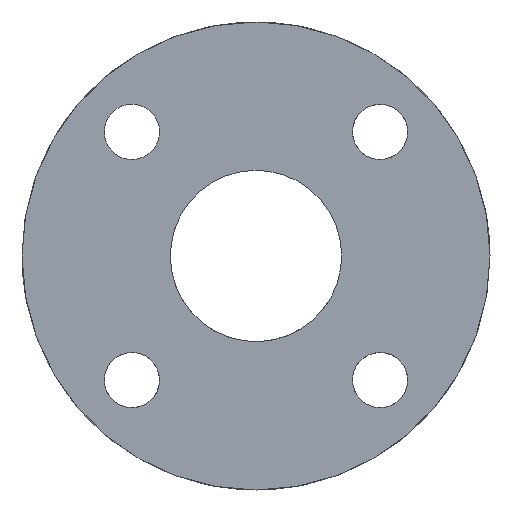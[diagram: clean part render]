
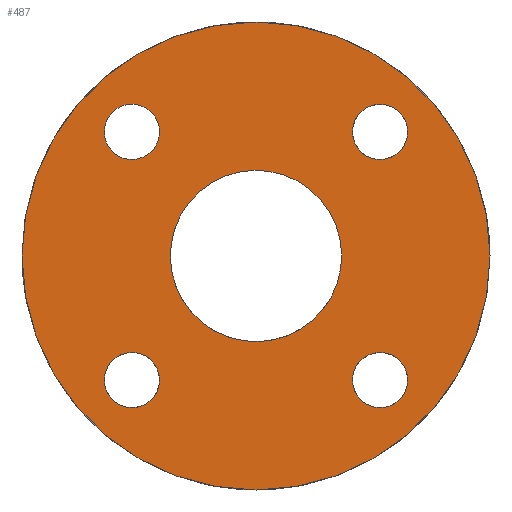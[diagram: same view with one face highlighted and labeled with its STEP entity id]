
A CAD part, left-side view. The second image highlights one B-rep face of the part: STEP entity #487.
In plain terms, the highlighted planar face has unit normal (-1, 0, 0).
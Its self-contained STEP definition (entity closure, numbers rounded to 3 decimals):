
#63=CARTESIAN_POINT('Vertex',(0.,11.953,13.267)) ;
#77=CARTESIAN_POINT('Vertex',(0.,17.745,16.431)) ;
#80=CARTESIAN_POINT('Axis2P3D Location',(0.,14.849,14.849)) ;
#115=CARTESIAN_POINT('Control Point',(0.,17.745,16.431)) ;
#116=CARTESIAN_POINT('Control Point',(0.,17.497,16.886)) ;
#117=CARTESIAN_POINT('Control Point',(0.,17.159,17.292)) ;
#118=CARTESIAN_POINT('Control Point',(0.,16.744,17.626)) ;
#119=CARTESIAN_POINT('Control Point',(0.,15.807,18.113)) ;
#120=CARTESIAN_POINT('Control Point',(0.,14.755,18.21)) ;
#121=CARTESIAN_POINT('Control Point',(0.,14.226,18.153)) ;
#122=CARTESIAN_POINT('Control Point',(0.,13.218,17.835)) ;
#123=CARTESIAN_POINT('Control Point',(0.,12.406,17.159)) ;
#124=CARTESIAN_POINT('Control Point',(0.,12.072,16.744)) ;
#125=CARTESIAN_POINT('Control Point',(0.,11.585,15.807)) ;
#126=CARTESIAN_POINT('Control Point',(0.,11.489,14.755)) ;
#127=CARTESIAN_POINT('Control Point',(0.,11.546,14.226)) ;
#128=CARTESIAN_POINT('Control Point',(0.,11.705,13.722)) ;
#129=CARTESIAN_POINT('Control Point',(0.,11.953,13.267)) ;
#388=CARTESIAN_POINT('Axis2P3D Location',(0.,0.,0.)) ;
#393=CARTESIAN_POINT('Axis2P3D Location',(0.,0.,0.)) ;
#397=CARTESIAN_POINT('Vertex',(0.,-28.,0.)) ;
#399=CARTESIAN_POINT('Vertex',(0.,28.,0.)) ;
#402=CARTESIAN_POINT('Axis2P3D Location',(0.,0.,0.)) ;
#415=CARTESIAN_POINT('Axis2P3D Location',(0.,0.,0.)) ;
#419=CARTESIAN_POINT('Vertex',(0.,-8.995,-4.914)) ;
#421=CARTESIAN_POINT('Vertex',(0.,8.995,4.914)) ;
#424=CARTESIAN_POINT('Axis2P3D Location',(0.,0.,0.)) ;
#433=CARTESIAN_POINT('Axis2P3D Location',(0.,-14.849,14.849)) ;
#437=CARTESIAN_POINT('Vertex',(0.,-16.431,17.745)) ;
#439=CARTESIAN_POINT('Vertex',(0.,-13.267,11.953)) ;
#442=CARTESIAN_POINT('Axis2P3D Location',(0.,-14.849,14.849)) ;
#451=CARTESIAN_POINT('Axis2P3D Location',(0.,-14.849,-14.849)) ;
#455=CARTESIAN_POINT('Vertex',(0.,-17.745,-16.431)) ;
#457=CARTESIAN_POINT('Vertex',(0.,-11.953,-13.267)) ;
#460=CARTESIAN_POINT('Axis2P3D Location',(0.,-14.849,-14.849)) ;
#469=CARTESIAN_POINT('Axis2P3D Location',(0.,14.849,-14.849)) ;
#473=CARTESIAN_POINT('Vertex',(0.,16.431,-17.745)) ;
#475=CARTESIAN_POINT('Vertex',(0.,13.267,-11.953)) ;
#478=CARTESIAN_POINT('Axis2P3D Location',(0.,14.849,-14.849)) ;
#81=DIRECTION('Axis2P3D Direction',(1.,0.,-0.)) ;
#389=DIRECTION('Axis2P3D Direction',(1.,0.,0.)) ;
#390=DIRECTION('Axis2P3D XDirection',(0.,1.,0.)) ;
#394=DIRECTION('Axis2P3D Direction',(1.,0.,0.)) ;
#403=DIRECTION('Axis2P3D Direction',(1.,0.,0.)) ;
#416=DIRECTION('Axis2P3D Direction',(1.,0.,0.)) ;
#425=DIRECTION('Axis2P3D Direction',(1.,0.,0.)) ;
#434=DIRECTION('Axis2P3D Direction',(1.,0.,0.)) ;
#443=DIRECTION('Axis2P3D Direction',(1.,0.,0.)) ;
#452=DIRECTION('Axis2P3D Direction',(1.,0.,0.)) ;
#461=DIRECTION('Axis2P3D Direction',(1.,0.,0.)) ;
#470=DIRECTION('Axis2P3D Direction',(1.,0.,0.)) ;
#479=DIRECTION('Axis2P3D Direction',(1.,0.,0.)) ;
#82=AXIS2_PLACEMENT_3D('Circle Axis2P3D',#80,#81,$) ;
#391=AXIS2_PLACEMENT_3D('Plane Axis2P3D',#388,#389,#390) ;
#395=AXIS2_PLACEMENT_3D('Circle Axis2P3D',#393,#394,$) ;
#404=AXIS2_PLACEMENT_3D('Circle Axis2P3D',#402,#403,$) ;
#417=AXIS2_PLACEMENT_3D('Circle Axis2P3D',#415,#416,$) ;
#426=AXIS2_PLACEMENT_3D('Circle Axis2P3D',#424,#425,$) ;
#435=AXIS2_PLACEMENT_3D('Circle Axis2P3D',#433,#434,$) ;
#444=AXIS2_PLACEMENT_3D('Circle Axis2P3D',#442,#443,$) ;
#453=AXIS2_PLACEMENT_3D('Circle Axis2P3D',#451,#452,$) ;
#462=AXIS2_PLACEMENT_3D('Circle Axis2P3D',#460,#461,$) ;
#471=AXIS2_PLACEMENT_3D('Circle Axis2P3D',#469,#470,$) ;
#480=AXIS2_PLACEMENT_3D('Circle Axis2P3D',#478,#479,$) ;
#408=ORIENTED_EDGE('',*,*,#401,.F.) ;
#409=ORIENTED_EDGE('',*,*,#406,.F.) ;
#412=ORIENTED_EDGE('',*,*,#84,.T.) ;
#413=ORIENTED_EDGE('',*,*,#130,.T.) ;
#430=ORIENTED_EDGE('',*,*,#423,.T.) ;
#431=ORIENTED_EDGE('',*,*,#428,.T.) ;
#448=ORIENTED_EDGE('',*,*,#441,.T.) ;
#449=ORIENTED_EDGE('',*,*,#446,.T.) ;
#466=ORIENTED_EDGE('',*,*,#459,.T.) ;
#467=ORIENTED_EDGE('',*,*,#464,.T.) ;
#484=ORIENTED_EDGE('',*,*,#477,.T.) ;
#485=ORIENTED_EDGE('',*,*,#482,.T.) ;
#414=FACE_BOUND('',#411,.T.) ;
#432=FACE_BOUND('',#429,.T.) ;
#450=FACE_BOUND('',#447,.T.) ;
#468=FACE_BOUND('',#465,.T.) ;
#486=FACE_BOUND('',#483,.T.) ;
#487=ADVANCED_FACE('TTM20',(#410,#414,#432,#450,#468,#486),#392,.F.) ;
#114=B_SPLINE_CURVE_WITH_KNOTS('',5,(#115,#116,#117,#118,#119,#120,#121,#122,#123,#124,#125,#126,#127,#128,#129),.UNSPECIFIED.,.F.,.U.,(6,3,3,3,6),(-5.184,-2.592,0.,2.592,5.184),.UNSPECIFIED.) ;
#83=CIRCLE('generated circle',#82,3.3) ;
#396=CIRCLE('generated circle',#395,28.) ;
#405=CIRCLE('generated circle',#404,28.) ;
#418=CIRCLE('generated circle',#417,10.25) ;
#427=CIRCLE('generated circle',#426,10.25) ;
#436=CIRCLE('generated circle',#435,3.3) ;
#445=CIRCLE('generated circle',#444,3.3) ;
#454=CIRCLE('generated circle',#453,3.3) ;
#463=CIRCLE('generated circle',#462,3.3) ;
#472=CIRCLE('generated circle',#471,3.3) ;
#481=CIRCLE('generated circle',#480,3.3) ;
#84=EDGE_CURVE('',#64,#78,#83,.T.) ;
#130=EDGE_CURVE('',#78,#64,#114,.T.) ;
#401=EDGE_CURVE('',#398,#400,#396,.T.) ;
#406=EDGE_CURVE('',#400,#398,#405,.T.) ;
#423=EDGE_CURVE('',#420,#422,#418,.T.) ;
#428=EDGE_CURVE('',#422,#420,#427,.T.) ;
#441=EDGE_CURVE('',#438,#440,#436,.T.) ;
#446=EDGE_CURVE('',#440,#438,#445,.T.) ;
#459=EDGE_CURVE('',#456,#458,#454,.T.) ;
#464=EDGE_CURVE('',#458,#456,#463,.T.) ;
#477=EDGE_CURVE('',#474,#476,#472,.T.) ;
#482=EDGE_CURVE('',#476,#474,#481,.T.) ;
#407=EDGE_LOOP('',(#408,#409)) ;
#411=EDGE_LOOP('',(#412,#413)) ;
#429=EDGE_LOOP('',(#430,#431)) ;
#447=EDGE_LOOP('',(#448,#449)) ;
#465=EDGE_LOOP('',(#466,#467)) ;
#483=EDGE_LOOP('',(#484,#485)) ;
#410=FACE_OUTER_BOUND('',#407,.T.) ;
#392=PLANE('',#391) ;
#64=VERTEX_POINT('',#63) ;
#78=VERTEX_POINT('',#77) ;
#398=VERTEX_POINT('',#397) ;
#400=VERTEX_POINT('',#399) ;
#420=VERTEX_POINT('',#419) ;
#422=VERTEX_POINT('',#421) ;
#438=VERTEX_POINT('',#437) ;
#440=VERTEX_POINT('',#439) ;
#456=VERTEX_POINT('',#455) ;
#458=VERTEX_POINT('',#457) ;
#474=VERTEX_POINT('',#473) ;
#476=VERTEX_POINT('',#475) ;
